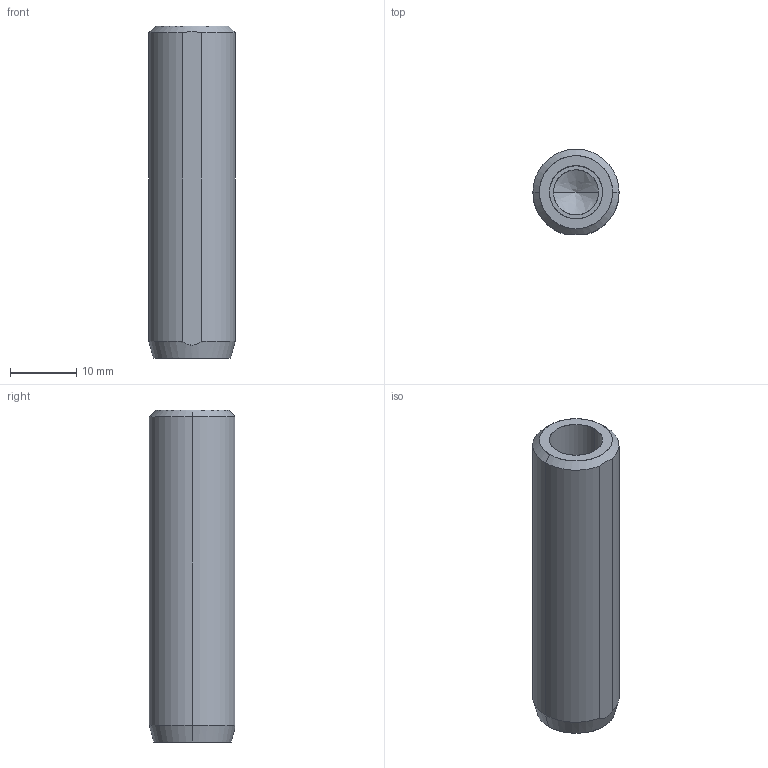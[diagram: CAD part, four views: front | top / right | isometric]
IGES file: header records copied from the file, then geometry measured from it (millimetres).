
Global section: file name: E:\UnigraphicsGraphicData\MISUMI_PRESS-PARTS\IGES\3d_mstm13-50_00436_r00.igs; native system: NX V5.0; preprocessor: UGS NX IGES V5.0; author: MISUMI; date: 20110105.161520; units: millimetre
Bounding box: 13 x 12.85 x 50 mm (x, y, z)
Surface area: 2700.5 mm2 (no closed solid volume)
Topology: 0 solids, 0 shells, 17 faces, 100 edges, 98 vertices
Faces by surface type: bspline 17
